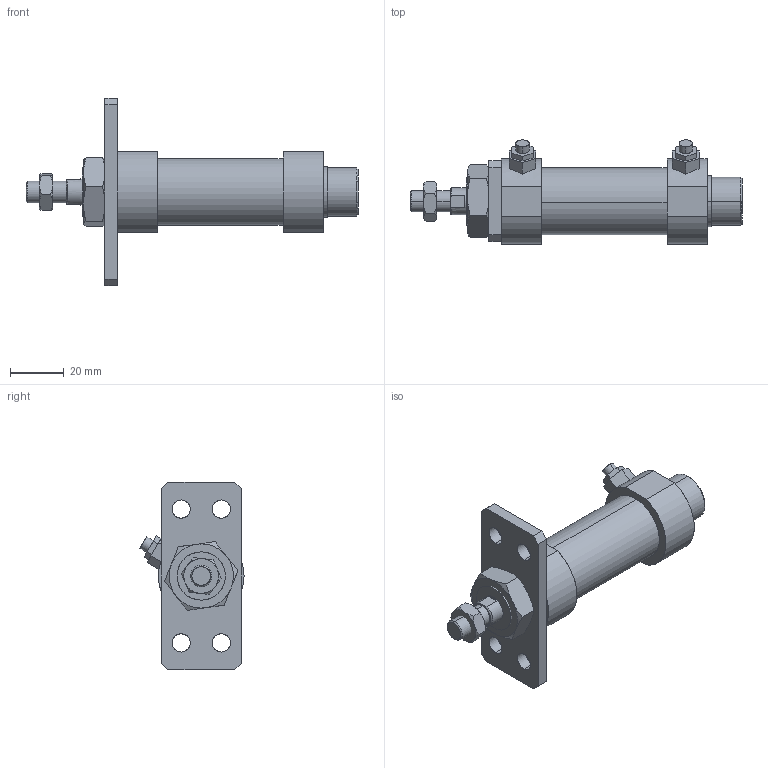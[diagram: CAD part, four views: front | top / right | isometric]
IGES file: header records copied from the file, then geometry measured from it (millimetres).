
Start section: SolidWorks IGES file using analytic representation for surfaces
Global section: file name: C:\Users\Toshiba\Desktop\JG2-20-15-A.IGS; native system: SolidWorks 2014; preprocessor: SolidWorks 2014; author: Toshiba; date: 160419.083242; units: millimetre
Bounding box: 124 x 38.9 x 70 mm (x, y, z)
Surface area: 21004.4 mm2 (no closed solid volume)
Topology: 0 solids, 0 shells, 156 faces, 2512 edges, 2508 vertices
Faces by surface type: bspline 102, revolution 54
